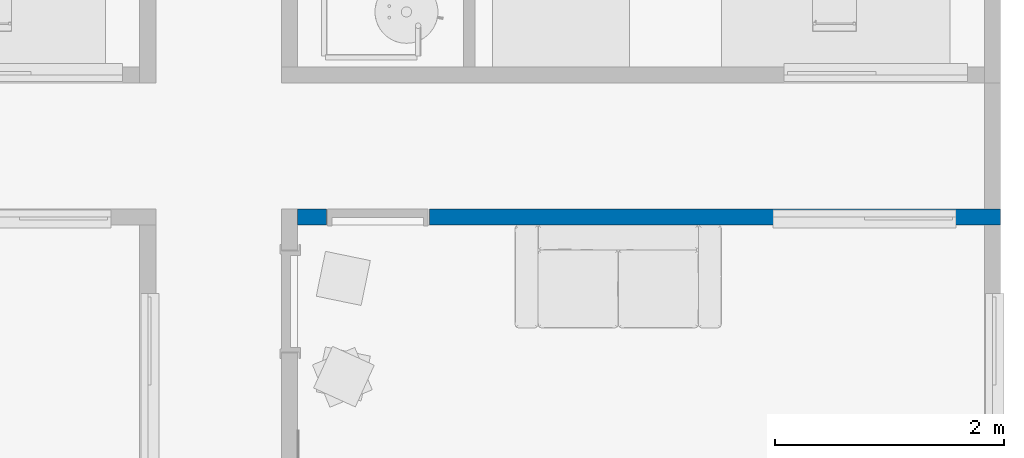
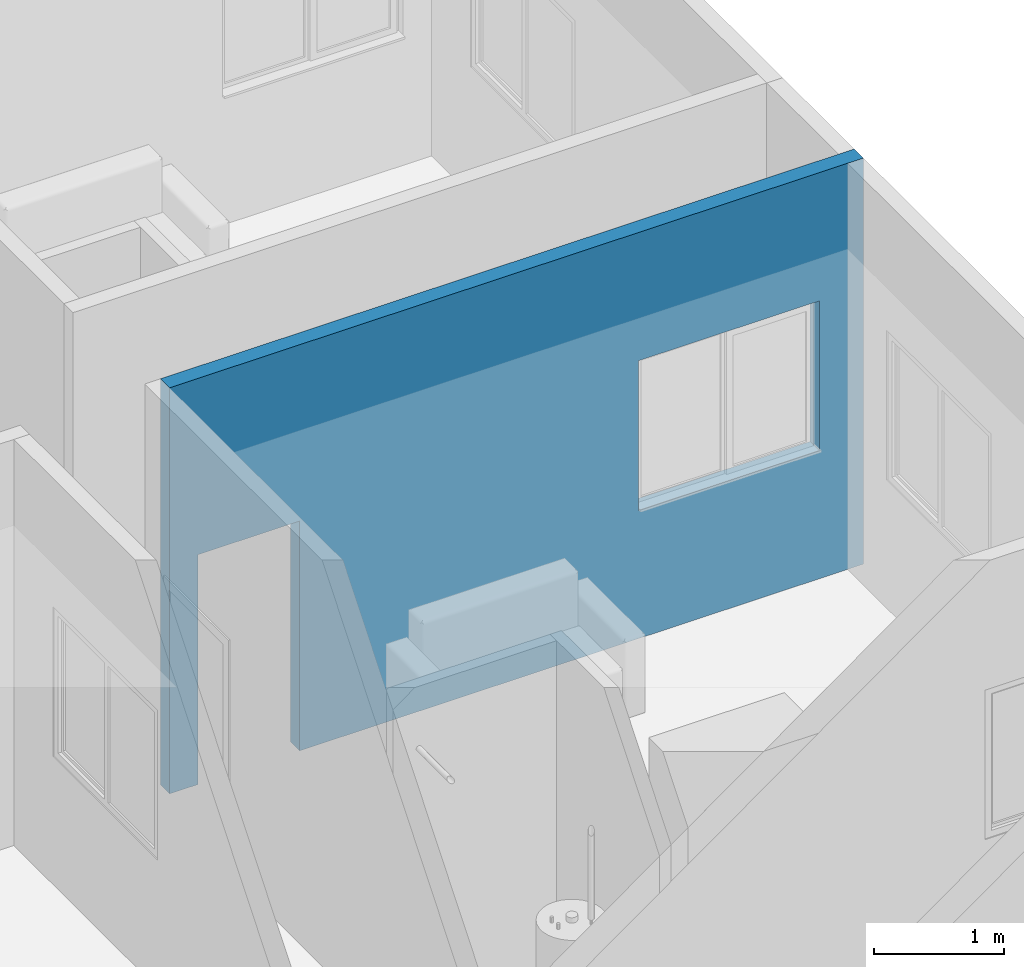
# One storey, part 12 of 71: 1 wall, 2 openings.
"""IFC4 building model written with IfcOpenShell, lengths in centimetres."""

from ifc_helpers import new_model, entity, si_unit, converted_unit, derived_unit, direction, frame, origin, place, context, subcontext, project, spatial, indexed_curve, outline, extrude, polygons, material, type_object, element, save


model = new_model("IFC4")

# Units and contexts
model_context = context("Model", 3, precision=0.001, world=origin(), true_north=direction((6.123233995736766e-17, 1.0)))
body_context = subcontext(model_context, "Body", "Model", "MODEL_VIEW")
ifc_project = project(units=[si_unit("LENGTHUNIT", "METRE", prefix="CENTI"), si_unit("AREAUNIT", "SQUARE_METRE"), si_unit("VOLUMEUNIT", "CUBIC_METRE"), derived_unit("THERMALTRANSMITTANCEUNIT", [(si_unit("MASSUNIT", "GRAM", prefix="KILO"), 1), (si_unit("THERMODYNAMICTEMPERATUREUNIT", "KELVIN"), -1), (si_unit("TIMEUNIT", "SECOND"), -3)]), converted_unit("PLANEANGLEUNIT", "DEGREE", entity("IfcPlaneAngleMeasure", 0.017453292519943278), si_unit("PLANEANGLEUNIT", "RADIAN"), dimensions=[0, 0, 0, 0, 0, 0, 0]), derived_unit("MASSDENSITYUNIT", [(si_unit("MASSUNIT", "GRAM", prefix="KILO"), 1), (si_unit("LENGTHUNIT", "METRE"), -3)]), derived_unit("VAPORPERMEABILITYUNIT", [(si_unit("LENGTHUNIT", "METRE"), -1), (si_unit("TIMEUNIT", "SECOND"), 1)]), derived_unit("USERDEFINED", [(si_unit("MASSUNIT", "GRAM", prefix="KILO"), 1), (si_unit("TIMEUNIT", "SECOND"), -3), (si_unit("LENGTHUNIT", "METRE"), 3), (si_unit("ELECTRICCURRENTUNIT", "AMPERE"), -2)]), derived_unit("SPECIFICHEATCAPACITYUNIT", [(si_unit("THERMODYNAMICTEMPERATUREUNIT", "KELVIN"), -1), (si_unit("LENGTHUNIT", "METRE"), 2), (si_unit("TIMEUNIT", "SECOND"), -2)]), derived_unit("THERMALCONDUCTANCEUNIT", [(si_unit("MASSUNIT", "GRAM", prefix="KILO"), 1), (si_unit("THERMODYNAMICTEMPERATUREUNIT", "KELVIN"), -1), (si_unit("TIMEUNIT", "SECOND"), -3), (si_unit("LENGTHUNIT", "METRE"), 1)]), si_unit("PRESSUREUNIT", "PASCAL"), derived_unit("MODULUSOFELASTICITYUNIT", [(si_unit("MASSUNIT", "GRAM", prefix="KILO"), 1), (si_unit("LENGTHUNIT", "METRE"), -1), (si_unit("TIMEUNIT", "SECOND"), -2)]), derived_unit("THERMALEXPANSIONCOEFFICIENTUNIT", [(si_unit("THERMODYNAMICTEMPERATUREUNIT", "KELVIN"), -1)])], contexts=[model_context])

# Site, building, storey
site_placement = place(None, origin())
site = spatial("IfcSite", under=ifc_project, at=site_placement, Name="Default", CompositionType="ELEMENT")
building_placement = place(site_placement, origin())
building = spatial("IfcBuilding", under=site, at=building_placement, Name="IDS Escape Game Building", CompositionType="ELEMENT")
storey_placement = place(building_placement, frame((0.0, 0.0, 400.0)))
storey = spatial("IfcBuildingStorey", under=building, at=storey_placement, Name="01_First Floor", CompositionType="ELEMENT", Elevation=399.99999999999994)

# Wall, openings
ifc_material = material(Name="ARC_FME.g2_Fg2 Masonry_00_gen_BERSnl", Category="g - klei")
wall_type = type_object("IfcWallType", Name="Basic Wall:ARC_22.10_WA_LB_SB14_gen_BERSnl", PredefinedType="STANDARD")
wall_placement = place(storey_placement, frame((5049.0, 1796.0, 0.0), z_axis=(0.0, 0.0, 1.0), x_axis=(-1.0, 0.0, 0.0)))
wall = element("IfcWall", 1, at=wall_placement, inside=storey, type_object=wall_type, material=ifc_material, Name="Basic Wall:ARC_22.10_WA_LB_SB14_gen_BERSnl", ObjectType="Basic Wall:ARC_22.10_WA_LB_SB14_gen_BERSnl", PredefinedType="NOTDEFINED", context=body_context, shape_type="Tessellation", body=[
    polygons([(38.999999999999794, -7.0000000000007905, 120.0), (38.999999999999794, -7.0000000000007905, 260.0000000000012), (198.9999999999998, -7.0000000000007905, 260.0000000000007), (198.9999999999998, -7.0000000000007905, 120.0), (194.00000000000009, -7.000000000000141, 120.0), (43.999999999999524, -7.000000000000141, 120.0), (613.9999999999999, -7.000000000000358, 379.9999999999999), (14.000000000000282, -7.000000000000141, 380.0), (0.0, -7.000000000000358, 379.9999999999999), (0.0, -7.000000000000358, 0.0), (14.000000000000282, -7.000000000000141, 0.0), (498.99999999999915, -7.000000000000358, 0.0), (498.9999999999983, -7.000000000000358, 215.00000000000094), (588.9999999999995, -7.000000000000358, 215.00000000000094), (588.9999999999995, -7.000000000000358, 0.0), (613.9999999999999, -7.000000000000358, 0.0), (0.0, 6.9999999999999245, 379.9999999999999), (14.000000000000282, 6.9999999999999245, 380.0), (613.9999999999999, 6.9999999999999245, 379.9999999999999), (613.9999999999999, 6.9999999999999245, 0.0), (588.9999999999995, 6.9999999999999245, 0.0), (588.9999999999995, 6.9999999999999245, 215.00000000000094), (498.99999999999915, 6.9999999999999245, 215.00000000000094), (498.99999999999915, 6.9999999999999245, 0.0), (14.000000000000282, 6.9999999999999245, 0.0), (0.0, 6.9999999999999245, 0.0), (38.999999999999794, 6.9999999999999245, 260.0000000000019), (38.999999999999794, 6.9999999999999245, 120.0), (198.9999999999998, 6.9999999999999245, 120.0), (198.9999999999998, 6.9999999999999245, 260.0000000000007)], [[[7, 8, 9, 10, 11, 12, 13, 14, 15, 16], [1, 2, 3, 4, 5, 6]], [[17, 18, 19, 20, 21, 22, 23, 24, 25, 26], [27, 28, 29, 30]], [[12, 11, 10, 26, 25, 24]], [[9, 8, 7, 19, 18, 17]], [[14, 22, 21, 15]], [[23, 13, 12, 24]], [[22, 14, 13, 23]], [[1, 28, 27, 2]], [[3, 30, 29, 4]], [[30, 3, 2, 27]], [[28, 1, 6, 5, 4, 29]], [[10, 9, 17, 26]], [[7, 16, 20, 19]], [[16, 15, 21, 20]]], closed=True),
])
opening_1_placement = place(wall_placement, frame((5049.0, 1796.0, 0.0), z_axis=(0.0, 0.0, 1.0), x_axis=(-1.0, 0.0, 0.0)))
element("IfcOpeningElement", 2, at=opening_1_placement, cuts=wall, Name="Basic Wall:ARC_22.10_WA_LB_SB14_gen_BERSnl", PredefinedType="OPENING", context=body_context, shape_type="SweptSolid", body=[
    extrude(outline(indexed_curve([(-45.00000000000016, -137.49999999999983), (45.00000000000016, -137.49999999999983), (45.00000000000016, 137.49999999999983), (-45.00000000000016, 137.49999999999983), (-45.00000000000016, -137.49999999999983)], self_intersect=False)), frame((4505.0, 1886.0, 77.50000000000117), z_axis=(0.0, -1.0, 0.0), x_axis=(1.0, 0.0, 0.0)), (0.0, 0.0, 1.0), 165.99999999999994),
])
opening_2_placement = place(wall_placement, frame((5049.0, 1796.0, 120.0), z_axis=(0.0, 0.0, 1.0), x_axis=(-1.0, 0.0, 0.0)))
element("IfcOpeningElement", 3, at=opening_2_placement, cuts=wall, Name="Basic Wall:ARC_22.10_WA_LB_SB14_gen_BERSnl", PredefinedType="OPENING", context=body_context, shape_type="Tessellation", body=[
    polygons([(5010.0, 1803.0, 0.0), (5010.0, 1803.0, -1.0), (5010.0, 1808.0000000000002, -1.0), (5010.0, 1808.0000000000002, 0.0), (4850.0, 1803.0, 0.0), (4850.0, 1808.0000000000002, 0.0), (4850.0, 1808.0000000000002, -1.0), (4850.0, 1803.0, -1.0), (5005.0, 1803.0000000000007, 0.0), (4855.0, 1803.0000000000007, 0.0), (4855.0, 1808.0000000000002, 0.0), (4855.000000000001, 1808.0000000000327, 134.99999999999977), (5005.0, 1808.0000000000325, 134.99999999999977), (5005.0, 1808.0000000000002, 0.0), (5010.0, 1783.9631748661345, 0.0), (5010.0, 1803.0000000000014, 0.0), (5010.0, 1803.0000000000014, 140.00000000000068), (5010.0, 1783.9631748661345, 140.00000000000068), (4850.0, 1783.9631748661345, 140.0000000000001), (4850.0, 1803.0000000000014, 140.0000000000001), (4850.0, 1803.0000000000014, 0.0), (4850.0, 1783.9631748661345, 0.0), (5005.0, 1803.0000000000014, 134.99999999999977), (4855.000000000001, 1803.0000000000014, 134.99999999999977)], [[[1, 2, 3, 4]], [[5, 6, 7, 8]], [[1, 9, 10, 5, 8, 2]], [[2, 8, 7, 3]], [[3, 7, 6, 11, 12, 13, 14, 4]], [[4, 14, 9, 1]], [[15, 16, 17, 18]], [[19, 20, 21, 22]], [[18, 17, 20, 19]], [[18, 19, 22, 15]], [[17, 16, 9, 23, 24, 10, 21, 20]], [[22, 21, 10, 9, 16, 15]], [[11, 10, 24, 12]], [[13, 23, 9, 14]], [[12, 24, 23, 13]], [[5, 10, 11, 6]]], closed=True),
])

save(model, "model.ifc")
